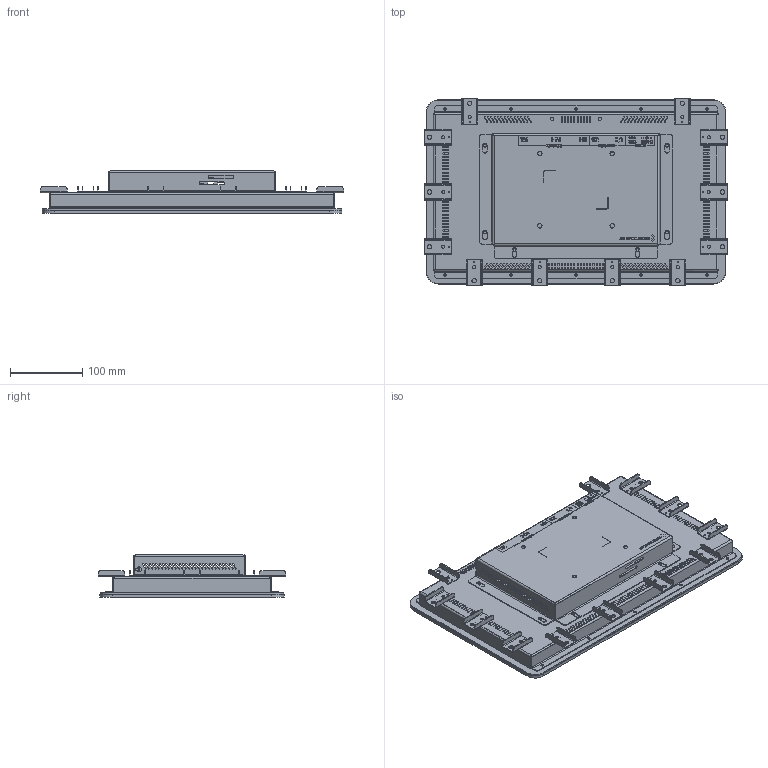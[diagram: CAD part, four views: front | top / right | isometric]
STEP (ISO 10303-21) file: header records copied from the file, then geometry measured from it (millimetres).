
FILE_DESCRIPTION(('STEP AP242'), '1');
FILE_NAME('Ñáîðêà_Gla15W', '', ('UNSPECIFIED'), ('UNSPECIFIED'), 'C3D Converter', 'C3D Toolkit', '');
FILE_SCHEMA(('AP242_MANAGED_MODEL_BASED_3D_ENGINEERING_MIM_LF { 1 0 10303 442 1 1 4 }'));
Length unit declared in the file: millimetre
Products named in the file (1): -step
Bounding box: 418.96 x 259.39 x 58.05 mm (x, y, z)
Volume: 694565.3 mm3; surface area: 562450.1 mm2
Topology: 1 solids, 1 shells, 3332 faces, 9130 edges, 5972 vertices
Faces by surface type: plane 1674, extrusion 894, cylinder 732, bspline 32
Full cylindrical faces by diameter (mm): 1.6 x12, 2 x10, 2.5 x6, 3 x14, 3.5 x10, 4 x6, 4.2 x12, 4.22 x10, 4.35 x12, 6 x12, 6.1 x4
Entity records: 135092 total; most frequent: CARTESIAN_POINT 25685, ORIENTED_EDGE 18044, DIRECTION 14318, EDGE_CURVE 9022, VECTOR 6624, VERTEX_POINT 5972, LINE 5730, EDGE_LOOP 4156
